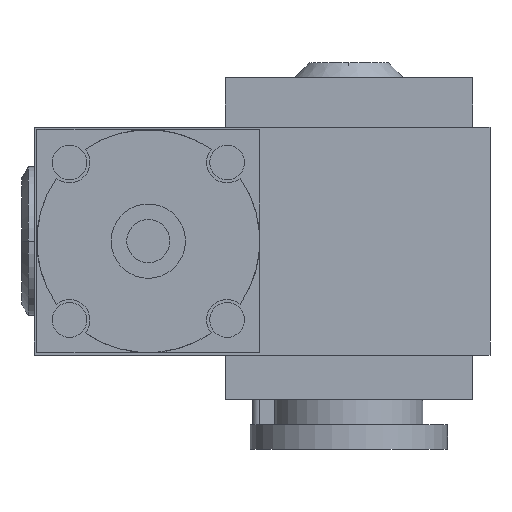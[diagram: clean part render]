
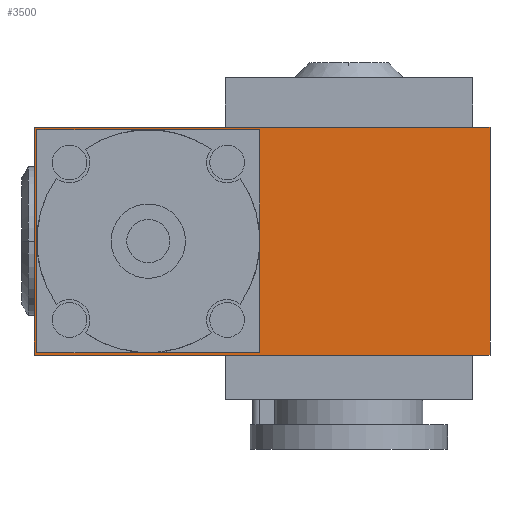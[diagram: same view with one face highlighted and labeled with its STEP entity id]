
A CAD part, left-side view. The second image highlights one B-rep face of the part: STEP entity #3500.
In plain terms, the highlighted planar face has unit normal (-1, 0, 0).
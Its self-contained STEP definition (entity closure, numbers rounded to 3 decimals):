
#31=DIRECTION('',(0.,-1.,0.));
#32=VECTOR('',#31,92.);
#33=CARTESIAN_POINT('',(-28.,63.5,-23.));
#34=LINE('',#33,#32);
#88=DIRECTION('',(0.,0.,1.));
#89=VECTOR('',#88,46.);
#90=CARTESIAN_POINT('',(-28.,63.5,-23.));
#91=LINE('',#90,#89);
#95=DIRECTION('',(0.,1.,0.));
#96=VECTOR('',#95,45.);
#97=CARTESIAN_POINT('',(-28.,18.,-22.5));
#98=LINE('',#97,#96);
#102=DIRECTION('',(0.,0.,1.));
#103=VECTOR('',#102,45.);
#104=CARTESIAN_POINT('',(-28.,18.,-22.5));
#105=LINE('',#104,#103);
#109=DIRECTION('',(0.,1.,0.));
#110=VECTOR('',#109,45.);
#111=CARTESIAN_POINT('',(-28.,18.,22.5));
#112=LINE('',#111,#110);
#116=DIRECTION('',(0.,0.,1.));
#117=VECTOR('',#116,45.);
#118=CARTESIAN_POINT('',(-28.,63.,-22.5));
#119=LINE('',#118,#117);
#181=DIRECTION('',(0.,0.,1.));
#182=VECTOR('',#181,46.);
#183=CARTESIAN_POINT('',(-28.,-28.5,-23.));
#184=LINE('',#183,#182);
#188=DIRECTION('',(0.,-1.,0.));
#189=VECTOR('',#188,92.);
#190=CARTESIAN_POINT('',(-28.,63.5,23.));
#191=LINE('',#190,#189);
#2926=CARTESIAN_POINT('',(-28.,63.5,-23.));
#2927=CARTESIAN_POINT('',(-28.,-28.5,-23.));
#2928=VERTEX_POINT('',#2926);
#2929=VERTEX_POINT('',#2927);
#2934=CARTESIAN_POINT('',(-28.,63.5,23.));
#2935=CARTESIAN_POINT('',(-28.,-28.5,23.));
#2936=VERTEX_POINT('',#2934);
#2937=VERTEX_POINT('',#2935);
#2950=CARTESIAN_POINT('',(-28.,18.,-22.5));
#2951=CARTESIAN_POINT('',(-28.,63.,-22.5));
#2952=VERTEX_POINT('',#2950);
#2953=VERTEX_POINT('',#2951);
#2954=CARTESIAN_POINT('',(-28.,18.,22.5));
#2955=CARTESIAN_POINT('',(-28.,63.,22.5));
#2956=VERTEX_POINT('',#2954);
#2957=VERTEX_POINT('',#2955);
#3476=CARTESIAN_POINT('',(-28.,63.5,-23.));
#3477=DIRECTION('',(-1.,0.,0.));
#3478=DIRECTION('',(0.,-1.,0.));
#3479=AXIS2_PLACEMENT_3D('',#3476,#3477,#3478);
#3480=PLANE('',#3479);
#3481=ORIENTED_EDGE('',*,*,#3455,.F.);
#3483=ORIENTED_EDGE('',*,*,#3482,.T.);
#3485=ORIENTED_EDGE('',*,*,#3484,.T.);
#3487=ORIENTED_EDGE('',*,*,#3486,.F.);
#3488=EDGE_LOOP('',(#3481,#3483,#3485,#3487));
#3489=FACE_OUTER_BOUND('',#3488,.F.);
#3491=ORIENTED_EDGE('',*,*,#3490,.F.);
#3493=ORIENTED_EDGE('',*,*,#3492,.T.);
#3495=ORIENTED_EDGE('',*,*,#3494,.T.);
#3497=ORIENTED_EDGE('',*,*,#3496,.F.);
#3498=EDGE_LOOP('',(#3491,#3493,#3495,#3497));
#3499=FACE_BOUND('',#3498,.F.);
#3500=ADVANCED_FACE('',(#3489,#3499),#3480,.T.);
#3455=EDGE_CURVE('',#2928,#2929,#34,.T.);
#3482=EDGE_CURVE('',#2928,#2936,#91,.T.);
#3484=EDGE_CURVE('',#2936,#2937,#191,.T.);
#3486=EDGE_CURVE('',#2929,#2937,#184,.T.);
#3490=EDGE_CURVE('',#2952,#2953,#98,.T.);
#3492=EDGE_CURVE('',#2952,#2956,#105,.T.);
#3494=EDGE_CURVE('',#2956,#2957,#112,.T.);
#3496=EDGE_CURVE('',#2953,#2957,#119,.T.);
